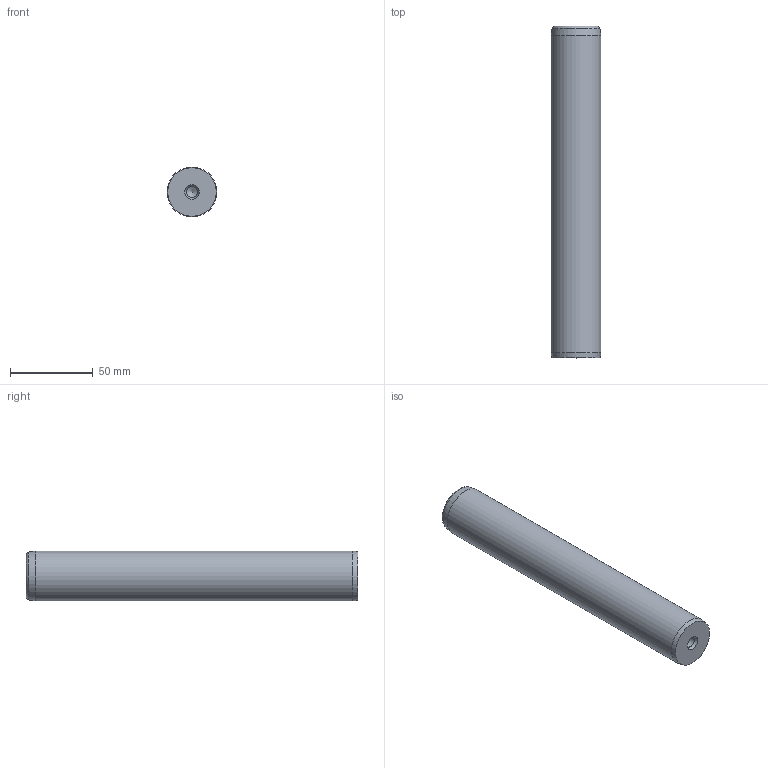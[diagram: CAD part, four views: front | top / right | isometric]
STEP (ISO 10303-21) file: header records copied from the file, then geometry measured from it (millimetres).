
FILE_DESCRIPTION( ( 'STEP AP203' ), '1' );
FILE_NAME( 'D:/Cuma/D14/D14_30200.step', '2003-01-18T23:25:07', ( ' ' ), ( ' ' ), 'XStep 1.0', ' ', ' ' );
FILE_SCHEMA( ( 'CONFIG_CONTROL_DESIGN' ) );
Length unit declared in the file: metre
Products named in the file (1): 1
Bounding box: 30 x 200 x 30 mm (x, y, z)
Volume: 139059.7 mm3; surface area: 21178.6 mm2
Topology: 1 solids, 1 shells, 14 faces, 29 edges, 17 vertices
Faces by surface type: cone 6, cylinder 5, plane 2, torus 1
Full cylindrical faces by diameter (mm): 6.75 x4, 30 x1
Entity records: 327 total; most frequent: DIRECTION 56, CARTESIAN_POINT 43, AXIS2_PLACEMENT_3D 28, EDGE_LOOP 26, ORIENTED_EDGE 26, FACE_OUTER_BOUND 20, VERTEX_POINT 15, ADVANCED_FACE 14
